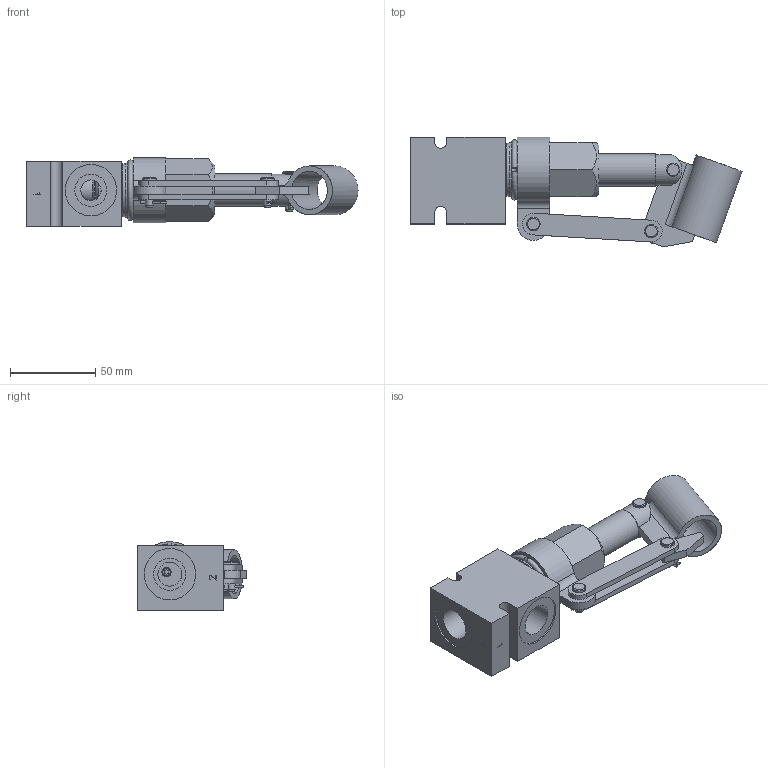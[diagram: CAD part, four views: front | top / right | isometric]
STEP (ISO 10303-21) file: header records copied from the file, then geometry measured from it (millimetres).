
FILE_DESCRIPTION( ( 'Unknown' ), '1' );
FILE_NAME( 'G:/Graphic Design/Graphic Design 2/Data Sheets/SPECIAL VALVES/2_STP/D-DEHPB0L-C2.stp', 'Unknown', ( 'Unknown' ), ( 'Unknown' ), 'PSStep 16.0.42', 'Unknown', ' ' );
FILE_SCHEMA( ( 'AUTOMOTIVE_DESIGN { 1 0 10303 214 1 1 1 1 }' ) );
Length unit declared in the file: millimetre
Products named in the file (19): dehpb0l extended; DEHPB0L-3D Full1; DEHPB0L-3D Full2; DEHPB0L-3D Full3; DEHPB0L-3D Full4; DEHPB0L-3D Full5; DEHPB0L-3D Full6; DEHPB0L-3D Full7; DEHPB0L-3D Full8; DEHPB0L-3D Full9; DEHPB0L-3D Full10; DEHPB0L-3D Full11; DEHPB0L-3D Full12; DEHPB0L-3D Full13; DEHPB0L-3D Full14; DEHPB0L-3D Full15; DEHPB0L-3D Full16 extended; Assem1; B-DDEC2
Assembly tree (18 placements, depth 3):
  Assem1
    B-DDEC2
    dehpb0l extended
      DEHPB0L-3D Full1
      DEHPB0L-3D Full2
      DEHPB0L-3D Full3
      DEHPB0L-3D Full4
      DEHPB0L-3D Full5
      DEHPB0L-3D Full6
      DEHPB0L-3D Full7
      DEHPB0L-3D Full8
      DEHPB0L-3D Full9
      DEHPB0L-3D Full10
      DEHPB0L-3D Full11
      DEHPB0L-3D Full12
      DEHPB0L-3D Full13
      DEHPB0L-3D Full14
      DEHPB0L-3D Full15
      DEHPB0L-3D Full16 extended
Bounding box: 194.37 x 64.19 x 40.12 mm (x, y, z)
Surface area: 56255.8 mm2 (no closed solid volume)
Topology: 0 solids, 269 shells, 269 faces, 1095 edges, 982 vertices
Faces by surface type: plane 135, cylinder 93, cone 23, torus 18
Full cylindrical faces by diameter (mm): 0.2 x2, 1.194 x15, 1.524 x3, 3.175 x1, 3.861 x2, 4.572 x1, 4.661 x3, 4.877 x9, 5.486 x1, 5.867 x1, 7.874 x3, 12 x1, 12.992 x1, 13.106 x1, 14 x1, 15.697 x1, 15.773 x2, 15.9 x1, 17.043 x1, 17.297 x1, 18.8 x4, 19.023 x1, 19.621 x1, 20.262 x2, 22.225 x2, 28.575 x1, 29.21 x1, 30.17 x2, 30.175 x1, 30.988 x1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
Entity records: 14044 total; most frequent: CARTESIAN_POINT 3658, DIRECTION 1710, VERTEX_POINT 951, ORIENTED_EDGE 944, EDGE_CURVE 944, AXIS2_PLACEMENT_3D 679, FACE_BOUND 437, EDGE_LOOP 430
